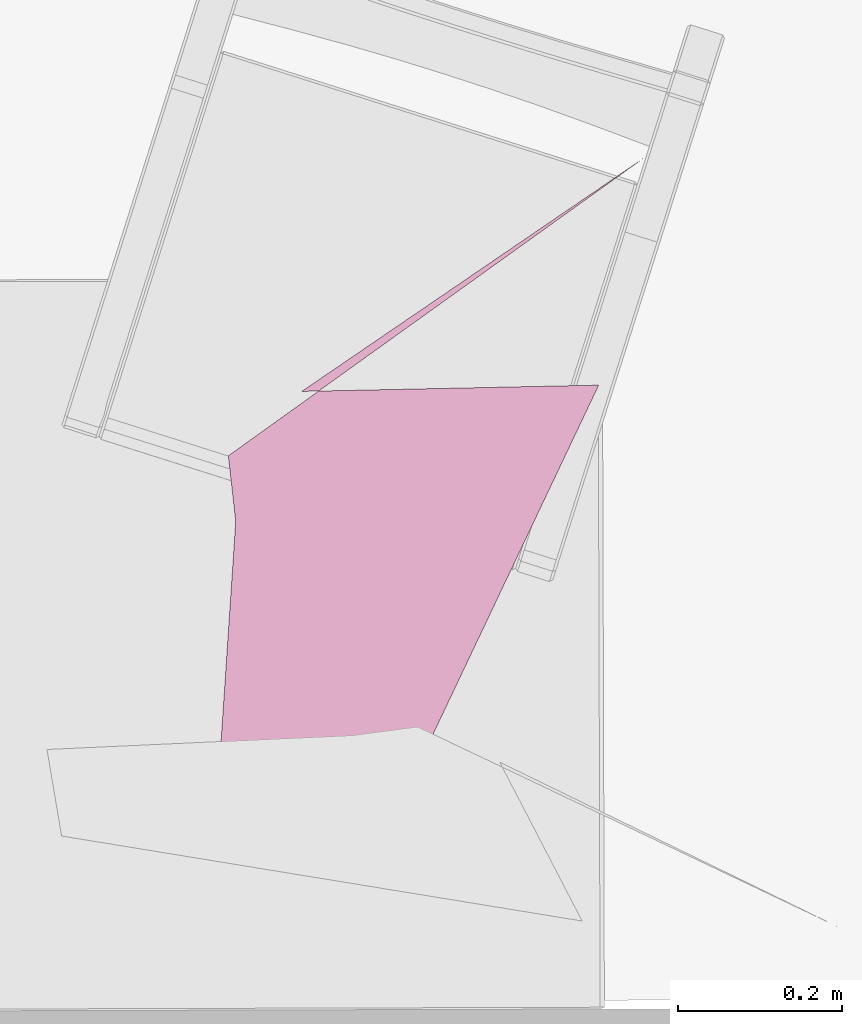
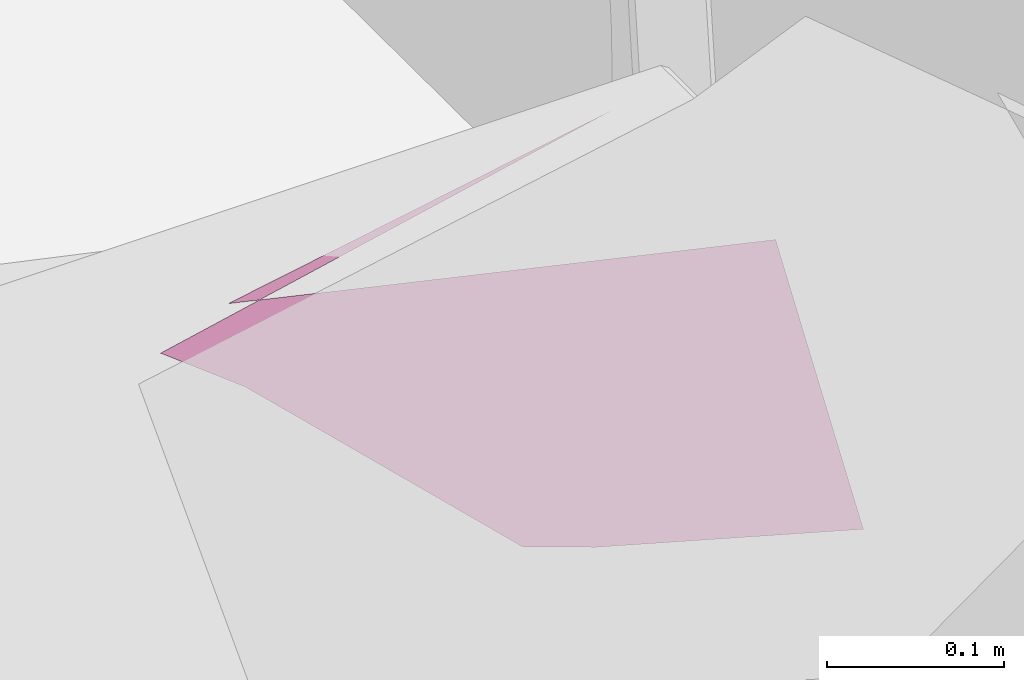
# One storey, part 7 of 15: 1 furniture element.
"""IFC4 building model written with IfcOpenShell, lengths in metres."""

from ifc_helpers import new_model, si_unit, direction, frame, origin_with_axes, place, context, project, spatial, polygons, shape, element, save


model = new_model("IFC4")

# Units and contexts
model_context = context("Model", 3, precision=1e-05, world=origin_with_axes(), true_north=direction((-0.077, 0.997, 0.0)))
ifc_project = project(units=[si_unit("AREAUNIT", "SQUARE_METRE"), si_unit("LENGTHUNIT", "METRE")], contexts=[model_context])

# Site, building, storey, space
site_placement = place(None, origin_with_axes())
site = spatial("IfcSite", under=ifc_project, at=site_placement, Name="Site", CompositionType="ELEMENT")
building_placement = place(site_placement, origin_with_axes())
building = spatial("IfcBuilding", under=site, at=building_placement, Name="Building", CompositionType="ELEMENT")
storey_placement = place(building_placement, frame((0.0, 0.0, 5.71135139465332), z_axis=(0.0, 0.0, 1.0), x_axis=(1.0, 0.0, 0.0)))
storey = spatial("IfcBuildingStorey", under=building, at=storey_placement, Name="Story 2", CompositionType="ELEMENT", Elevation=5.71135139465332)
space_placement = place(storey_placement, frame((4.05763642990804, -5.18838181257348, 0.0), z_axis=(0.0, 0.0, 1.0), x_axis=(1.0, 0.0, 0.0)))
space = spatial("IfcSpace", under=storey, at=space_placement, Name="015", CompositionType="ELEMENT")

# Furniture
furniture_placement = place(space_placement, frame((-1.41056489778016, 0.198302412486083, 0.947704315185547), z_axis=(-0.0643997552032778, -0.950823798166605, 0.302963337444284), x_axis=(0.973656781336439, -0.126412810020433, -0.189769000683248)))
element("IfcFurniture", 1, at=furniture_placement, inside=space, Name="tes t 3", PredefinedType="USERDEFINED", shapes=[
    shape(model_context, None, "Tessellation", [polygons([(2.22044604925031e-16, 0.0, -6.66133814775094e-16), (0.230837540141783, 0.0, -0.616817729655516), (-0.136810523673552, 0.0, -0.559886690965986), (0.269129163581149, 0.0, -0.913802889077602), (-0.222373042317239, 0.0, -0.466044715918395), (-0.207688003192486, 8.88178419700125e-16, -0.383768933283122), (-0.207328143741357, 8.88178419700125e-16, -0.0108681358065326), (-0.166671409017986, 8.88178419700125e-16, 1.55431223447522e-15), (-0.115790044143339, 8.88178419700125e-16, -0.563141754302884)], [[[7, 6, 8]], [[1, 8, 6]], [[6, 2, 1]], [[2, 6, 9]], [[9, 6, 5]], [[4, 9, 3]]])]),
])

save(model, "model.ifc")
